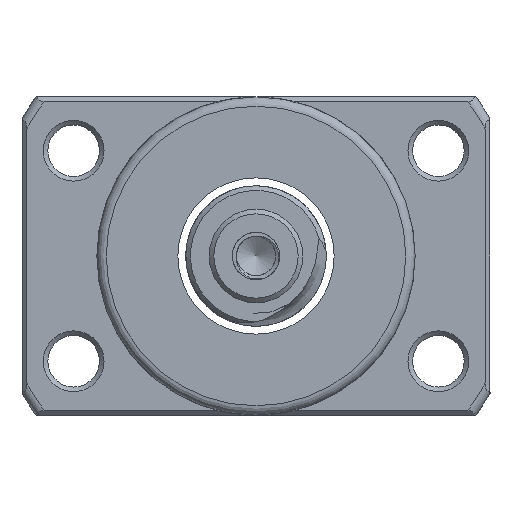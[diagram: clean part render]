
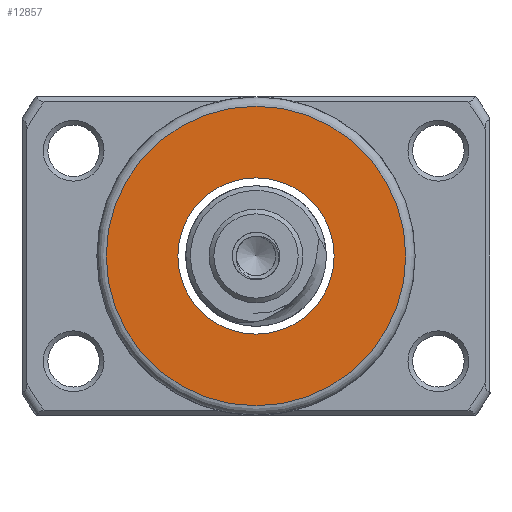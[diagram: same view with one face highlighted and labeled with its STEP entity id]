
A CAD part, left-side view. The second image highlights one B-rep face of the part: STEP entity #12857.
In plain terms, the highlighted planar face has unit normal (-1, 0, 0).
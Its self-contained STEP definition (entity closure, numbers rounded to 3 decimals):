
#296 = CARTESIAN_POINT ( 'NONE',  ( -53.324, 0., 0. ) ) ;
#364 = AXIS2_PLACEMENT_3D ( 'NONE', #7761, #14689, #16168 ) ;
#1601 = DIRECTION ( 'NONE',  ( -1., 0., 0. ) ) ;
#1710 = DIRECTION ( 'NONE',  ( 0., 0., 1. ) ) ;
#2461 = ORIENTED_EDGE ( 'NONE', *, *, #15649, .F. ) ;
#3419 = FACE_OUTER_BOUND ( 'NONE', #5592, .T. ) ;
#4308 = DIRECTION ( 'NONE',  ( -1., 0., 0. ) ) ;
#4579 = CARTESIAN_POINT ( 'NONE',  ( -53.324, 0., 0. ) ) ;
#4602 = EDGE_CURVE ( 'NONE', #6884, #6884, #17319, .T. ) ;
#5126 = AXIS2_PLACEMENT_3D ( 'NONE', #296, #1601, #12690 ) ;
#5592 = EDGE_LOOP ( 'NONE', ( #15442 ) ) ;
#6050 = CARTESIAN_POINT ( 'NONE',  ( -53.324, 0., 8.35 ) ) ;
#6884 = VERTEX_POINT ( 'NONE', #14082 ) ;
#7272 = AXIS2_PLACEMENT_3D ( 'NONE', #4579, #4308, #1710 ) ;
#7761 = CARTESIAN_POINT ( 'NONE',  ( -53.324, 8.35, 0. ) ) ;
#9051 = PLANE ( 'NONE',  #364 ) ;
#12690 = DIRECTION ( 'NONE',  ( 0., 0., 1. ) ) ;
#12857 = ADVANCED_FACE ( 'NONE', ( #3419, #15975 ), #9051, .T. ) ;
#13081 = CIRCLE ( 'NONE', #5126, 8.35 ) ;
#13884 = EDGE_LOOP ( 'NONE', ( #2461 ) ) ;
#14082 = CARTESIAN_POINT ( 'NONE',  ( -53.324, 0., 16. ) ) ;
#14689 = DIRECTION ( 'NONE',  ( -1., 0., 0. ) ) ;
#15442 = ORIENTED_EDGE ( 'NONE', *, *, #4602, .T. ) ;
#15649 = EDGE_CURVE ( 'NONE', #15741, #15741, #13081, .T. ) ;
#15741 = VERTEX_POINT ( 'NONE', #6050 ) ;
#15975 = FACE_BOUND ( 'NONE', #13884, .T. ) ;
#16168 = DIRECTION ( 'NONE',  ( 0., 0., 1. ) ) ;
#17319 = CIRCLE ( 'NONE', #7272, 16. ) ;
